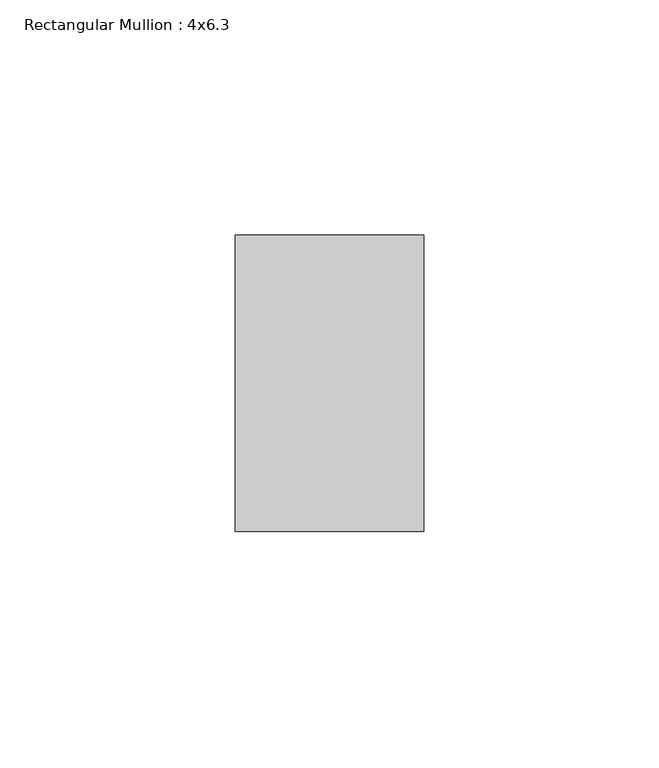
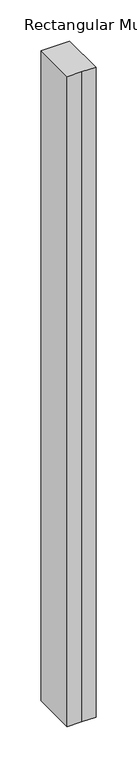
"""IFC4 building model written with IfcOpenShell, lengths in millimetres: member geometry, Rectangular Mullion : 4x6.3."""

from ifc_helpers import new_model, si_unit, frame, origin, place, context, project, spatial, polyline, outline, extrude, source, transform, mapped, element, save


def rectangular_mullion_4x6_3_e9bf39c9(model_context):
    return source(origin(), model_context, "Body", "SweptSolid", [
        extrude(outline(polyline([(-20.0, 20.0), (-20.0, 83.0), (20.0, 83.0), (20.0, 20.0), (0.0, 20.0), (-20.0, 20.0)])), frame((0.0, 0.0, -959.3919612), z_axis=(0.0, 0.0, 1.0), x_axis=(1.0, 0.0, 0.0)), (0.0, 0.0, 1.0), 959.3919612),
    ])


if __name__ == "__main__":
    model = new_model("IFC4")
    model_context = context("Model", 3, world=origin())
    ifc_project = project(units=[si_unit("LENGTHUNIT", "METRE", prefix="MILLI")], contexts=[model_context])
    site = spatial("IfcSite", under=ifc_project)
    building = spatial("IfcBuilding", under=site)
    placement = place(None, origin())
    rectangular_mullion_4x6_3_shape = rectangular_mullion_4x6_3_e9bf39c9(model_context)
    element("IfcMember", 1, ObjectType="Rectangular Mullion : 4x6.3", at=placement, inside=building, context=model_context, shape_type="MappedRepresentation", body=[
        mapped(rectangular_mullion_4x6_3_shape, transform((0.0, 0.0, 0.0), x_axis=(1.0, 0.0, 0.0), y_axis=(0.0, 1.0, 0.0), z_axis=(0.0, 0.0, 1.0))),
    ])
    save(model, "model.ifc")
